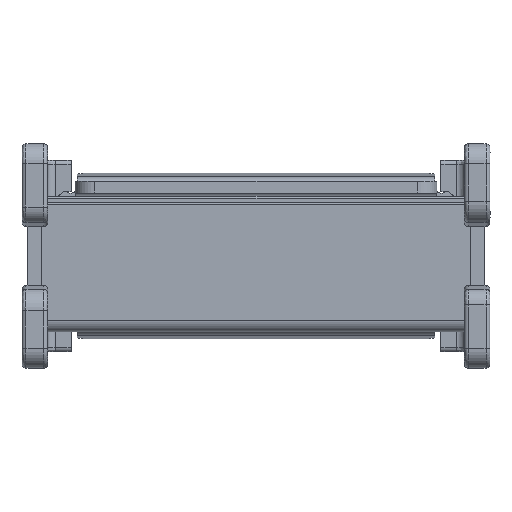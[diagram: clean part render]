
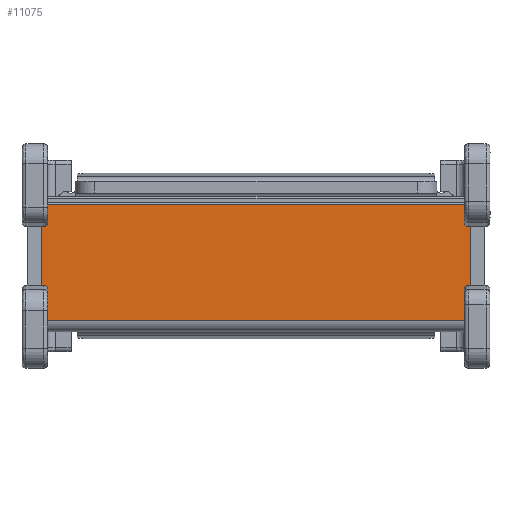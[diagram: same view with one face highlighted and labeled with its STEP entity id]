
A CAD part, front view. The second image highlights one B-rep face of the part: STEP entity #11075.
In plain terms, the highlighted planar face has unit normal (0, -1, 0).
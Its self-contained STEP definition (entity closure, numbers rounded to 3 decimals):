
#795 = LINE ( 'NONE', #27024, #24889 ) ;
#1740 = CARTESIAN_POINT ( 'NONE',  ( 58., 21.6, 10.73 ) ) ;
#1817 = VERTEX_POINT ( 'NONE', #18167 ) ;
#3858 = DIRECTION ( 'NONE',  ( 1., 0., 0. ) ) ;
#6007 = LINE ( 'NONE', #29550, #22894 ) ;
#6021 = VERTEX_POINT ( 'NONE', #10628 ) ;
#6888 = DIRECTION ( 'NONE',  ( -1., 0., 0. ) ) ;
#9537 = DIRECTION ( 'NONE',  ( -1., 0., 0. ) ) ;
#10628 = CARTESIAN_POINT ( 'NONE',  ( 113.1, 21.6, 10.23 ) ) ;
#11075 = ADVANCED_FACE ( 'NONE', ( #30163 ), #14658, .T. ) ;
#13592 = CARTESIAN_POINT ( 'NONE',  ( 113.1, 21.6, -19.27 ) ) ;
#14070 = CARTESIAN_POINT ( 'NONE',  ( 4., 21.6, -5.77 ) ) ;
#14396 = EDGE_CURVE ( 'NONE', #25290, #6021, #15940, .T. ) ;
#14443 = EDGE_LOOP ( 'NONE', ( #31959, #18593, #19189, #19610 ) ) ;
#14658 = PLANE ( 'NONE',  #18857 ) ;
#15940 = LINE ( 'NONE', #21547, #29557 ) ;
#16398 = DIRECTION ( 'NONE',  ( 0., 0., 1. ) ) ;
#16690 = DIRECTION ( 'NONE',  ( 0., 0., -1. ) ) ;
#17819 = VERTEX_POINT ( 'NONE', #20808 ) ;
#18116 = EDGE_CURVE ( 'NONE', #6021, #17819, #795, .T. ) ;
#18167 = CARTESIAN_POINT ( 'NONE',  ( 4., 21.6, -19.27 ) ) ;
#18593 = ORIENTED_EDGE ( 'NONE', *, *, #26867, .T. ) ;
#18857 = AXIS2_PLACEMENT_3D ( 'NONE', #1740, #32615, #6888 ) ;
#19189 = ORIENTED_EDGE ( 'NONE', *, *, #14396, .T. ) ;
#19610 = ORIENTED_EDGE ( 'NONE', *, *, #18116, .T. ) ;
#20808 = CARTESIAN_POINT ( 'NONE',  ( 4., 21.6, 10.23 ) ) ;
#21547 = CARTESIAN_POINT ( 'NONE',  ( 113.1, 21.6, 10.73 ) ) ;
#22894 = VECTOR ( 'NONE', #3858, 1000. ) ;
#24509 = LINE ( 'NONE', #14070, #30556 ) ;
#24889 = VECTOR ( 'NONE', #9537, 1000. ) ;
#25290 = VERTEX_POINT ( 'NONE', #13592 ) ;
#26867 = EDGE_CURVE ( 'NONE', #1817, #25290, #6007, .T. ) ;
#26925 = EDGE_CURVE ( 'NONE', #17819, #1817, #24509, .T. ) ;
#27024 = CARTESIAN_POINT ( 'NONE',  ( 58., 21.6, 10.23 ) ) ;
#29550 = CARTESIAN_POINT ( 'NONE',  ( 58., 21.6, -19.27 ) ) ;
#29557 = VECTOR ( 'NONE', #16398, 1000. ) ;
#30163 = FACE_OUTER_BOUND ( 'NONE', #14443, .T. ) ;
#30556 = VECTOR ( 'NONE', #16690, 1000. ) ;
#31959 = ORIENTED_EDGE ( 'NONE', *, *, #26925, .T. ) ;
#32615 = DIRECTION ( 'NONE',  ( 0., -1., 0. ) ) ;
